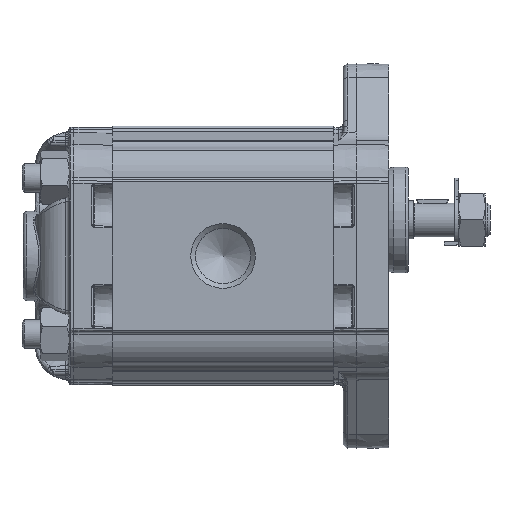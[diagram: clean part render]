
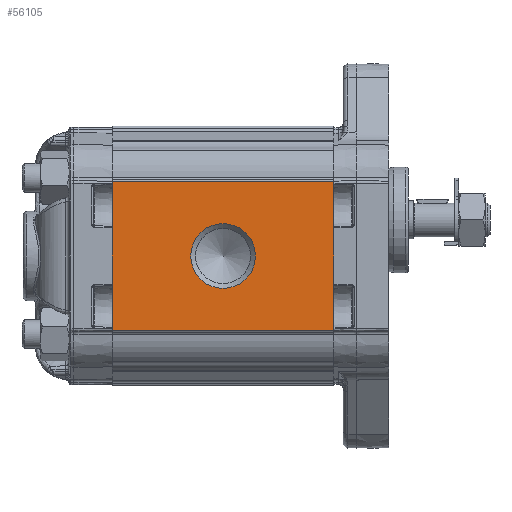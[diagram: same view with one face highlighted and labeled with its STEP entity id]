
A CAD part, left-side view. The second image highlights one B-rep face of the part: STEP entity #56105.
In plain terms, the highlighted planar face has unit normal (-1, 0, 0) as drawn and (1, 0, 0) by its records, which use the part's own axes.
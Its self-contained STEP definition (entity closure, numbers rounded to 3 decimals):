
#3725=LINE('',#94780,#5674);
#3726=LINE('',#94784,#5675);
#3727=LINE('',#94786,#5676);
#3728=LINE('',#94788,#5677);
#5674=VECTOR('',#65994,1000.);
#5675=VECTOR('',#65999,1000.);
#5676=VECTOR('',#66000,1000.);
#5677=VECTOR('',#66001,1000.);
#7968=PLANE('',#59411);
#12417=ORIENTED_EDGE('',*,*,#22255,.T.);
#12418=ORIENTED_EDGE('',*,*,#22256,.F.);
#12419=ORIENTED_EDGE('',*,*,#22254,.F.);
#12420=ORIENTED_EDGE('',*,*,#22257,.T.);
#12421=ORIENTED_EDGE('',*,*,#22258,.T.);
#22254=EDGE_CURVE('',#27405,#27404,#3725,.T.);
#22255=EDGE_CURVE('',#27406,#27406,#30397,.F.);
#22256=EDGE_CURVE('',#27404,#27407,#3726,.T.);
#22257=EDGE_CURVE('',#27405,#27408,#3727,.T.);
#22258=EDGE_CURVE('',#27408,#27407,#3728,.T.);
#27404=VERTEX_POINT('',#94777);
#27405=VERTEX_POINT('',#94779);
#27406=VERTEX_POINT('',#94783);
#27407=VERTEX_POINT('',#94785);
#27408=VERTEX_POINT('',#94787);
#30397=CIRCLE('',#59412,6.723);
#32514=EDGE_LOOP('',(#12417));
#32515=EDGE_LOOP('',(#12418,#12419,#12420,#12421));
#35332=FACE_BOUND('',#32514,.T.);
#35333=FACE_BOUND('',#32515,.T.);
#56105=ADVANCED_FACE('',(#35332,#35333),#7968,.T.);
#59411=AXIS2_PLACEMENT_3D('',#94781,#65995,#65996);
#59412=AXIS2_PLACEMENT_3D('',#94782,#65997,#65998);
#65994=DIRECTION('',(0.,-1.,0.));
#65995=DIRECTION('',(1.,0.,0.));
#65996=DIRECTION('',(0.,0.,-1.));
#65997=DIRECTION('',(1.,0.,0.));
#65998=DIRECTION('',(0.,0.,-1.));
#65999=DIRECTION('',(0.,0.,1.));
#66000=DIRECTION('',(0.,0.,1.));
#66001=DIRECTION('',(0.,-1.,0.));
#94777=CARTESIAN_POINT('',(25.,0.,-15.418));
#94779=CARTESIAN_POINT('',(25.,46.,-15.418));
#94780=CARTESIAN_POINT('',(25.,46.,-15.418));
#94781=CARTESIAN_POINT('',(25.,46.,-15.418));
#94782=CARTESIAN_POINT('',(25.,23.,0.));
#94783=CARTESIAN_POINT('',(25.,23.,-6.722));
#94784=CARTESIAN_POINT('',(25.,0.,-15.418));
#94785=CARTESIAN_POINT('',(25.,0.,15.418));
#94786=CARTESIAN_POINT('',(25.,46.,-15.418));
#94787=CARTESIAN_POINT('',(25.,46.,15.418));
#94788=CARTESIAN_POINT('',(25.,46.,15.418));
